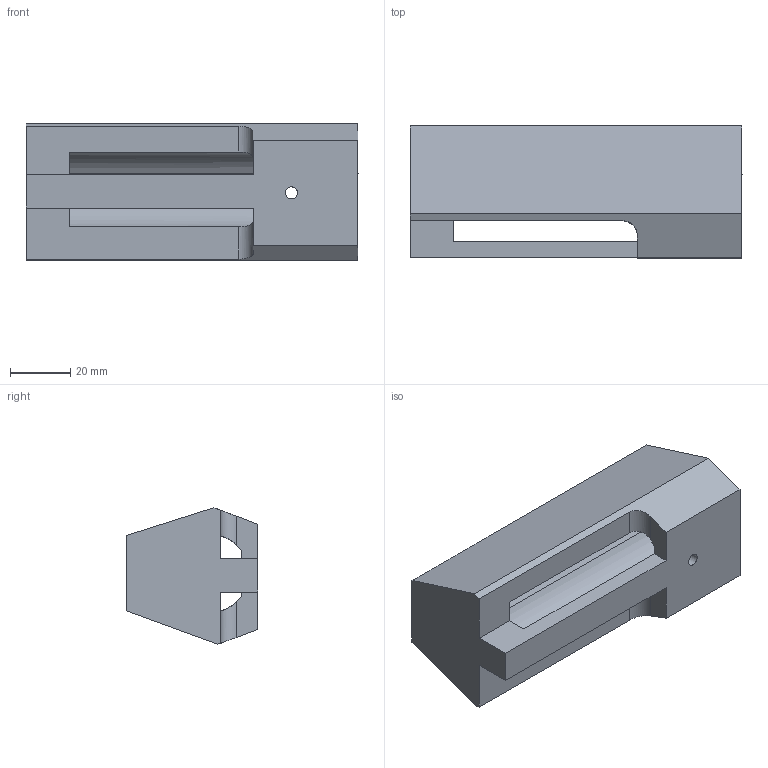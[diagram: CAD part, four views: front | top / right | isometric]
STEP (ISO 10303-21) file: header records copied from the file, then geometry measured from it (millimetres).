
FILE_DESCRIPTION(/* description */ (''),/* implementation_level */ '2;1');
FILE_NAME(/* name */ 'PCC 1.0/STEP/Tooling/EvoJig.step',/* time_stamp */ '2022-04-13T23:48:09-04:00',/* author */ (''),/* organization */ (''),/* preprocessor_version */ 'ST-DEVELOPER v18.1',/* originating_system */ 'Autodesk Translation Framework v10.14.0.1471',/* authorisation */ '');
FILE_SCHEMA (('AUTOMOTIVE_DESIGN { 1 0 10303 214 3 1 1 }'));
Length unit declared in the file: millimetre
Products named in the file (1): Jig
Bounding box: 109.79 x 43.61 x 45.1 mm (x, y, z)
Volume: 96607 mm3; surface area: 26843.3 mm2
Topology: 1 solids, 1 shells, 36 faces, 120 edges, 82 vertices
Faces by surface type: plane 26, cylinder 10
Full cylindrical faces by diameter (mm): 4 x2
Entity records: 1416 total; most frequent: CARTESIAN_POINT 298, ORIENTED_EDGE 240, DIRECTION 208, EDGE_CURVE 120, LINE 96, VECTOR 96, VERTEX_POINT 82, AXIS2_PLACEMENT_3D 56
